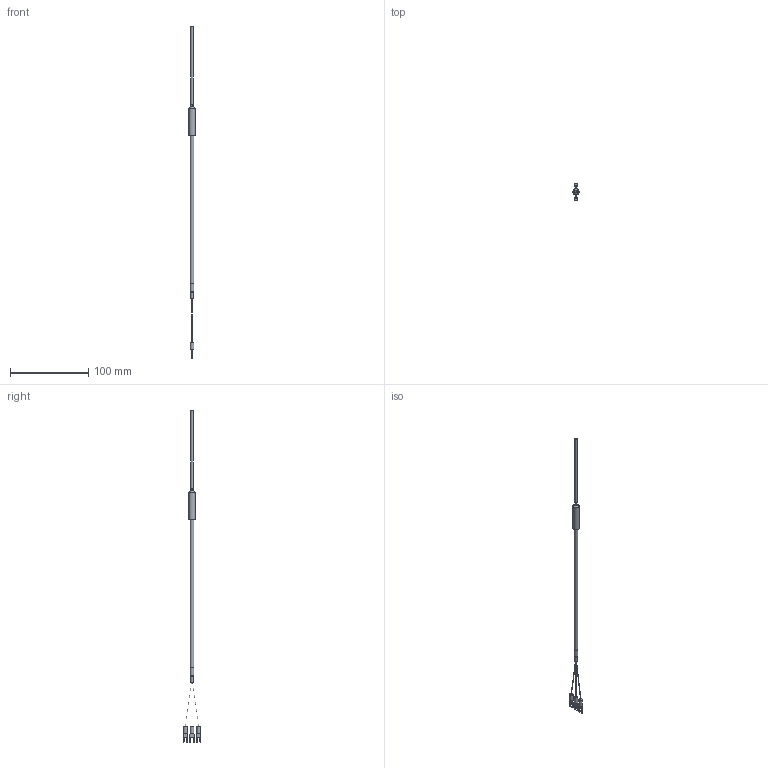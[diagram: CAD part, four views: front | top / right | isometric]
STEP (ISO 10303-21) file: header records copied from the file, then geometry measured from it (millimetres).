
FILE_DESCRIPTION (( 'STEP AP203' ), '1' );
FILE_NAME ('YIR101-2(0).STEP', '2024-09-26T07:40:02', ( '' ), ( '' ), 'SwSTEP 2.0', 'SolidWorks 2021', '' );
FILE_SCHEMA (( 'CONFIG_CONTROL_DESIGN' ));
Length unit declared in the file: millimetre
Products named in the file (1): YIR101-2(0)
Bounding box: 8 x 22.96 x 424.72 mm (x, y, z)
Volume: 6792.9 mm3; surface area: 6145.8 mm2
Topology: 1 solids, 1 shells, 88 faces, 217 edges, 142 vertices
Faces by surface type: plane 46, cylinder 30, bspline 8, cone 3, torus 1
Full cylindrical faces by diameter (mm): 0.5 x1, 3 x1, 3.16 x1, 4.5 x3, 4.8 x1, 5 x1, 8 x1
Entity records: 2757 total; most frequent: CARTESIAN_POINT 671, DIRECTION 412, ORIENTED_EDGE 394, EDGE_CURVE 197, AXIS2_PLACEMENT_3D 146, VERTEX_POINT 137, LINE 120, VECTOR 120
